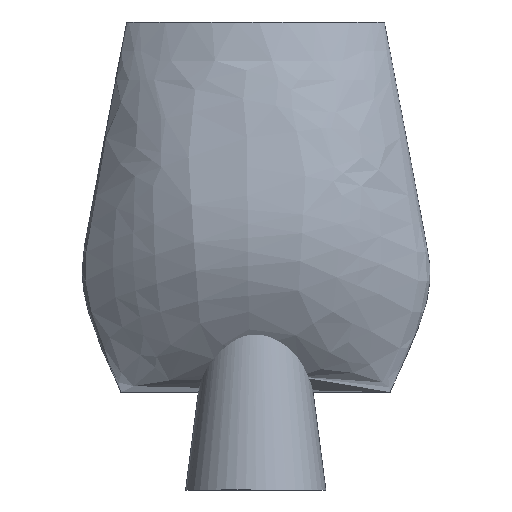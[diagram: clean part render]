
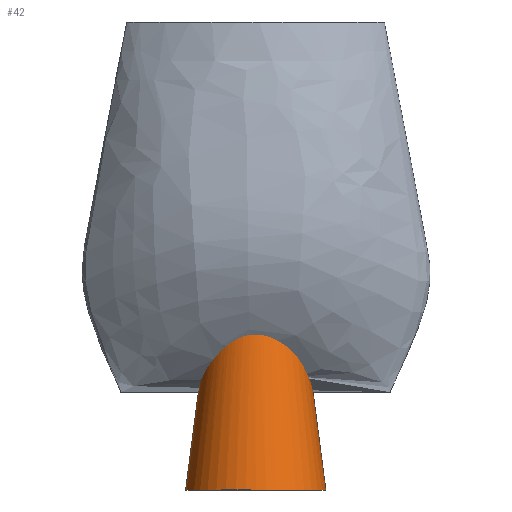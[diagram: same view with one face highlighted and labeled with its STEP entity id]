
A CAD part, front view. The second image highlights one B-rep face of the part: STEP entity #42.
In plain terms, the highlighted free-form (B-spline) face has degree [2, 1] with [5, 2] control points.
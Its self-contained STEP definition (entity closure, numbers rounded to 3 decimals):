
#16=(
BOUNDED_CURVE()
B_SPLINE_CURVE(2,(#4907,#4908,#4909,#4910,#4911),.UNSPECIFIED.,.F.,.F.)
B_SPLINE_CURVE_WITH_KNOTS((3,2,3),(-6.283,-4.712,
-3.142),.UNSPECIFIED.)
CURVE()
GEOMETRIC_REPRESENTATION_ITEM()
RATIONAL_B_SPLINE_CURVE((1.,0.707,1.,0.707,1.))
REPRESENTATION_ITEM('')
);
#17=(
BOUNDED_CURVE()
B_SPLINE_CURVE(2,(#4914,#4915,#4916,#4917,#4918),.UNSPECIFIED.,.F.,.F.)
B_SPLINE_CURVE_WITH_KNOTS((3,2,3),(3.142,4.712,6.283),
 .UNSPECIFIED.)
CURVE()
GEOMETRIC_REPRESENTATION_ITEM()
RATIONAL_B_SPLINE_CURVE((1.,0.707,1.,0.707,1.))
REPRESENTATION_ITEM('')
);
#22=(
BOUNDED_SURFACE()
B_SPLINE_SURFACE(2,1,((#4886,#4887),(#4888,#4889),(#4890,#4891),(#4892,
#4893),(#4894,#4895)),.UNSPECIFIED.,.F.,.F.,.F.)
B_SPLINE_SURFACE_WITH_KNOTS((3,2,3),(2,2),(3.142,4.712,
6.283),(0.,143.641),.UNSPECIFIED.)
GEOMETRIC_REPRESENTATION_ITEM()
RATIONAL_B_SPLINE_SURFACE(((1.,1.),(0.707,0.707),
(1.,1.),(0.707,0.707),(1.,1.)))
REPRESENTATION_ITEM('')
SURFACE()
);
#42=ADVANCED_FACE('',(#51),#22,.T.);
#51=FACE_OUTER_BOUND('',#60,.T.);
#60=EDGE_LOOP('',(#89,#90,#91,#92));
#89=ORIENTED_EDGE('',*,*,#113,.T.);
#90=ORIENTED_EDGE('',*,*,#110,.T.);
#91=ORIENTED_EDGE('',*,*,#111,.T.);
#92=ORIENTED_EDGE('',*,*,#112,.F.);
#110=EDGE_CURVE('',#144,#145,#131,.T.);
#111=EDGE_CURVE('',#145,#147,#16,.T.);
#112=EDGE_CURVE('',#146,#147,#132,.T.);
#113=EDGE_CURVE('',#146,#144,#17,.T.);
#131=B_SPLINE_CURVE_WITH_KNOTS('',1,(#4905,#4906),.UNSPECIFIED.,.F.,.F.,
(2,2),(0.,143.641),.UNSPECIFIED.);
#132=B_SPLINE_CURVE_WITH_KNOTS('',1,(#4912,#4913),.UNSPECIFIED.,.F.,.F.,
(2,2),(0.,143.641),.UNSPECIFIED.);
#144=VERTEX_POINT('',#4896);
#145=VERTEX_POINT('',#4897);
#146=VERTEX_POINT('',#4898);
#147=VERTEX_POINT('',#4899);
#4886=CARTESIAN_POINT('',(13354.676,-1530.503,-180.));
#4887=CARTESIAN_POINT('',(13383.955,-1530.503,44.072));
#4888=CARTESIAN_POINT('',(13354.676,-1597.845,-180.));
#4889=CARTESIAN_POINT('',(13383.955,-1568.566,44.072));
#4890=CARTESIAN_POINT('',(13422.018,-1597.845,-180.));
#4891=CARTESIAN_POINT('',(13422.018,-1568.566,44.072));
#4892=CARTESIAN_POINT('',(13489.36,-1597.845,-180.));
#4893=CARTESIAN_POINT('',(13460.08,-1568.566,44.072));
#4894=CARTESIAN_POINT('',(13489.36,-1530.503,-180.));
#4895=CARTESIAN_POINT('',(13460.08,-1530.503,44.072));
#4896=CARTESIAN_POINT('',(13489.36,-1530.503,-180.));
#4897=CARTESIAN_POINT('',(13460.08,-1530.503,44.072));
#4898=CARTESIAN_POINT('',(13354.676,-1530.503,-180.));
#4899=CARTESIAN_POINT('',(13383.955,-1530.503,44.072));
#4905=CARTESIAN_POINT('',(13489.36,-1530.503,-180.));
#4906=CARTESIAN_POINT('',(13460.08,-1530.503,44.072));
#4907=CARTESIAN_POINT('',(13460.08,-1530.503,44.072));
#4908=CARTESIAN_POINT('',(13460.08,-1568.566,44.072));
#4909=CARTESIAN_POINT('',(13422.018,-1568.566,44.072));
#4910=CARTESIAN_POINT('',(13383.955,-1568.566,44.072));
#4911=CARTESIAN_POINT('',(13383.955,-1530.503,44.072));
#4912=CARTESIAN_POINT('',(13354.676,-1530.503,-180.));
#4913=CARTESIAN_POINT('',(13383.955,-1530.503,44.072));
#4914=CARTESIAN_POINT('',(13354.676,-1530.503,-180.));
#4915=CARTESIAN_POINT('',(13354.676,-1597.845,-180.));
#4916=CARTESIAN_POINT('',(13422.018,-1597.845,-180.));
#4917=CARTESIAN_POINT('',(13489.36,-1597.845,-180.));
#4918=CARTESIAN_POINT('',(13489.36,-1530.503,-180.));
